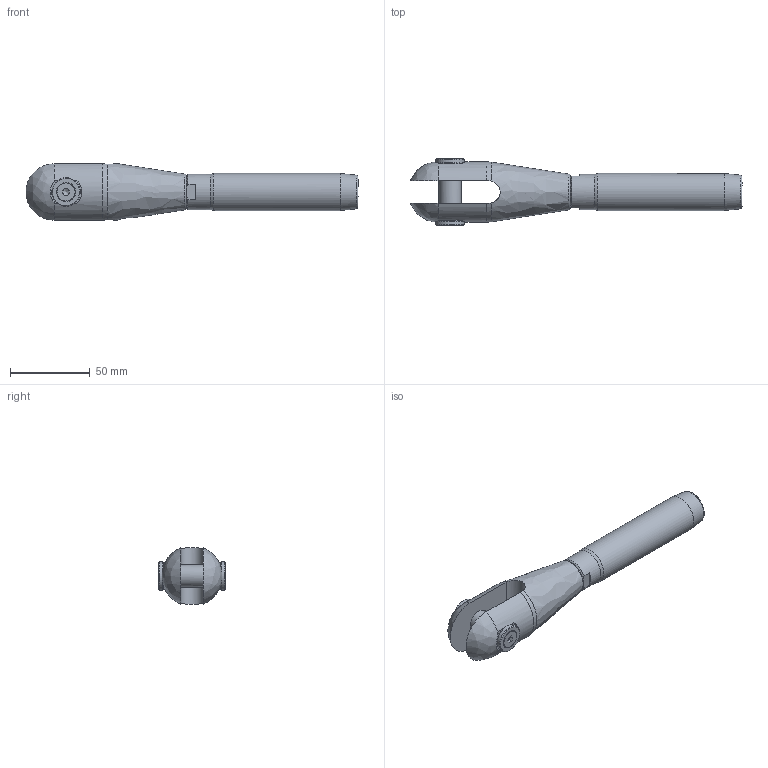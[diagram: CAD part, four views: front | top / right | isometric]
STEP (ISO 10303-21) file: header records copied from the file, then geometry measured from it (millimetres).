
FILE_DESCRIPTION(/* description */ (''),/* implementation_level */ '2;1');
FILE_NAME(/* name */ 'MAC-R 10_S355',/* time_stamp */ '2023-05-23T17:52:44+02:00',/* author */ (''),/* organization */ (''),/* preprocessor_version */ 'ST-DEVELOPER v16.5',/* originating_system */ 'Rhino 7.22',/* authorisation */ '');
FILE_SCHEMA (('CONFIG_CONTROL_DESIGN'));
Length unit declared in the file: millimetre
Products named in the file (1): Document
Bounding box: 208.65 x 42.41 x 35.83 mm (x, y, z)
Volume: 109548 mm3; surface area: 30699.6 mm2
Topology: 7 solids, 7 shells, 89 faces, 250 edges, 173 vertices
Faces by surface type: plane 37, bspline 28, cylinder 24
Full cylindrical faces by diameter (mm): 4.917 x2, 6 x2, 6.5 x2, 11.34 x2, 14 x1, 15 x2, 17.294 x1, 18 x2, 20 x1, 22.2 x1, 23.3 x1
Entity records: 3509 total; most frequent: CARTESIAN_POINT 1926, ORIENTED_EDGE 490, EDGE_CURVE 245, VERTEX_POINT 173, EDGE_LOOP 100, B_SPLINE_CURVE_WITH_KNOTS 99, ADVANCED_FACE 89, FACE_OUTER_BOUND 89
